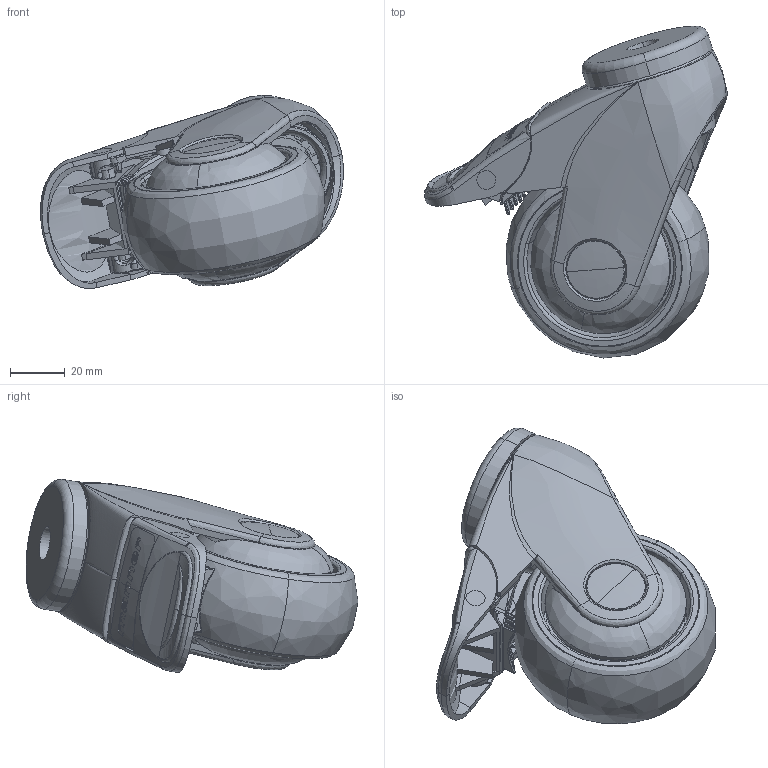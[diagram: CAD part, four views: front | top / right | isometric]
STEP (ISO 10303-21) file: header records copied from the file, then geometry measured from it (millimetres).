
FILE_DESCRIPTION (( 'STEP AP203' ), '1' );
FILE_NAME ('GK-J-S-75 PTE-K 80-12.STEP', '2019-11-07T08:13:51', ( '' ), ( '' ), 'SwSTEP 2.0', 'SolidWorks 2017', '' );
FILE_SCHEMA (( 'CONFIG_CONTROL_DESIGN' ));
Length unit declared in the file: millimetre
Products named in the file (1): GK-J-S-75 PTE-K 80-12
Bounding box: 110.92 x 121.55 x 70.77 mm (x, y, z)
Volume: 178117.6 mm3; surface area: 118876.7 mm2
Topology: 24 solids, 24 shells, 1996 faces, 5787 edges, 3771 vertices
Faces by surface type: bspline 768, plane 583, cylinder 414, cone 95, torus 94, sphere 42
Entity records: 140171 total; most frequent: CARTESIAN_POINT 95996, ORIENTED_EDGE 11376, DIRECTION 6329, EDGE_CURVE 5688, VERTEX_POINT 3739, B_SPLINE_CURVE_WITH_KNOTS 2610, AXIS2_PLACEMENT_3D 2404, EDGE_LOOP 2065
